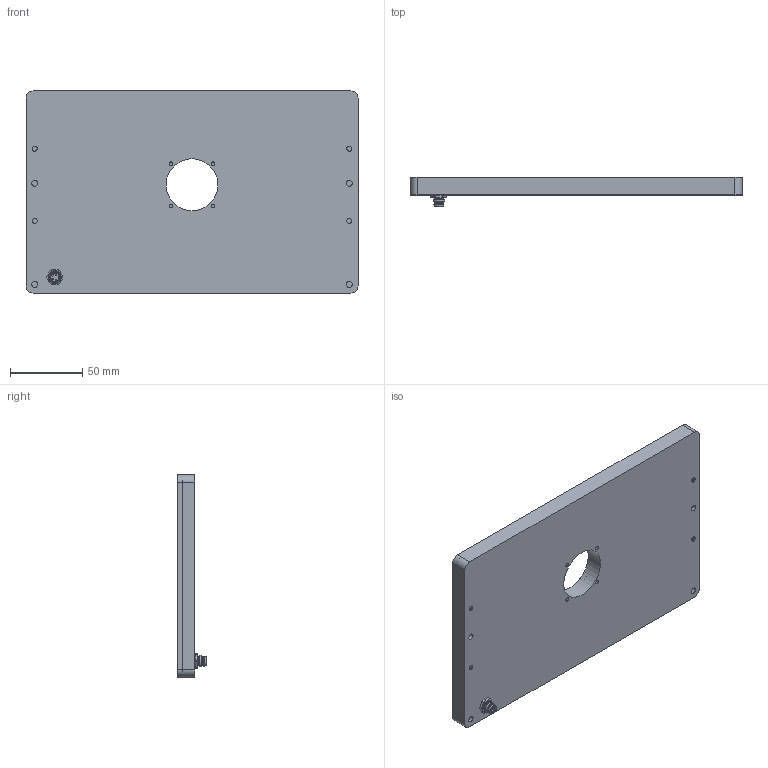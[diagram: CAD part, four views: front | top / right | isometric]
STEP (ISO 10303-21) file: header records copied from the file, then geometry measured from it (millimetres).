
FILE_DESCRIPTION (( 'STEP AP214' ), '1' );
FILE_NAME ('01826.01 Basisbaugruppe DTL-1020 Step17082020.STEP', '2020-08-17T08:46:04', ( '' ), ( '' ), 'SwSTEP 2.0', 'SolidWorks 2013', '' );
FILE_SCHEMA (( 'AUTOMOTIVE_DESIGN' ));
Length unit declared in the file: millimetre
Products named in the file (1): 01826.01 Basisbaugruppe DTL-1020 Step17082020
Bounding box: 230 x 20 x 140 mm (x, y, z)
Surface area: 88328.4 mm2 (no closed solid volume)
Topology: 0 solids, 9 shells, 81 faces, 211 edges, 146 vertices
Faces by surface type: cylinder 40, plane 34, cone 5, bspline 2
Full cylindrical faces by diameter (mm): 1 x4, 2.5 x4, 3.5 x4, 4.2 x4, 5.8 x1, 6.5 x2, 6.9 x1, 8 x1, 36 x1, 37.6 x1, 38 x2, 43 x1
Entity records: 3889 total; most frequent: CARTESIAN_POINT 1138, DIRECTION 404, ORIENTED_EDGE 280, AXIS2_PLACEMENT_3D 170, EDGE_CURVE 169, VERTEX_POINT 137, EDGE_LOOP 135, FACE_OUTER_BOUND 109
